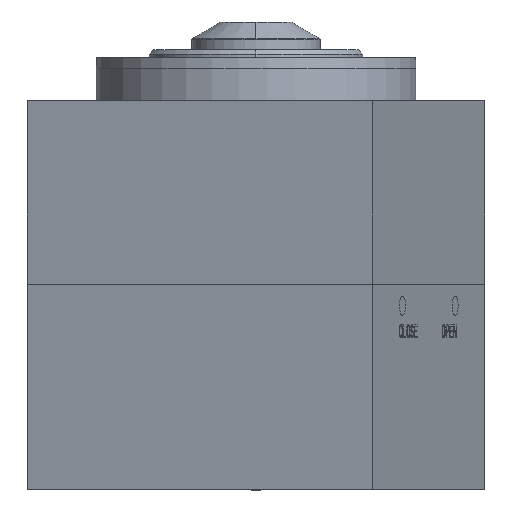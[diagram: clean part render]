
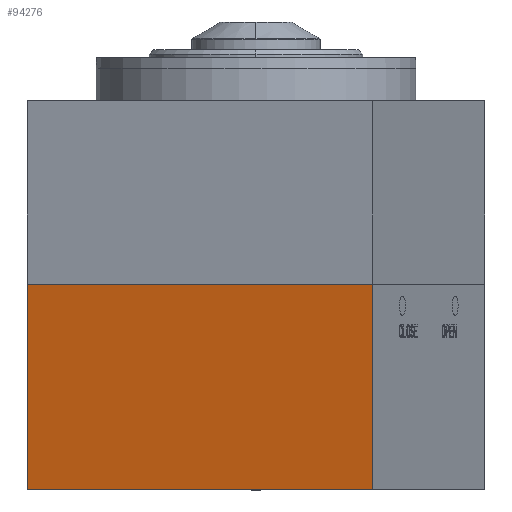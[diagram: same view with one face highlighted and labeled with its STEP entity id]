
A CAD part, left-side view. The second image highlights one B-rep face of the part: STEP entity #94276.
In plain terms, the highlighted planar face has unit normal (-0.951, 0.309, 0) as drawn and (-1, 0, 0) by its records, which use the part's own axes.
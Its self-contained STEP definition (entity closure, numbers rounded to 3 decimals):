
#85494=DIRECTION('',(0.,0.,-1.));
#85495=VECTOR('',#85494,170.);
#85496=CARTESIAN_POINT('',(-85.,0.,85.));
#85497=LINE('',#85496,#85495);
#85869=DIRECTION('',(0.,1.,0.));
#85870=VECTOR('',#85869,96.);
#85871=CARTESIAN_POINT('',(-85.,-96.,85.));
#85872=LINE('',#85871,#85870);
#87856=DIRECTION('',(0.,0.,-1.));
#87857=VECTOR('',#87856,170.);
#87858=CARTESIAN_POINT('',(-85.,-96.,85.));
#87859=LINE('',#87858,#87857);
#87884=DIRECTION('',(0.,1.,0.));
#87885=VECTOR('',#87884,96.);
#87886=CARTESIAN_POINT('',(-85.,-96.,-85.));
#87887=LINE('',#87886,#87885);
#91726=CARTESIAN_POINT('',(-85.,0.,85.));
#91727=CARTESIAN_POINT('',(-85.,0.,-85.));
#91728=VERTEX_POINT('',#91726);
#91729=VERTEX_POINT('',#91727);
#91734=CARTESIAN_POINT('',(-85.,-96.,85.));
#91735=CARTESIAN_POINT('',(-85.,-96.,-85.));
#91736=VERTEX_POINT('',#91734);
#91737=VERTEX_POINT('',#91735);
#94265=CARTESIAN_POINT('',(-85.,0.,-85.));
#94266=DIRECTION('',(-1.,0.,0.));
#94267=DIRECTION('',(0.,0.,1.));
#94268=AXIS2_PLACEMENT_3D('',#94265,#94266,#94267);
#94269=PLANE('',#94268);
#94270=ORIENTED_EDGE('',*,*,#92907,.F.);
#94271=ORIENTED_EDGE('',*,*,#93346,.F.);
#94272=ORIENTED_EDGE('',*,*,#94241,.T.);
#94273=ORIENTED_EDGE('',*,*,#93977,.T.);
#94274=EDGE_LOOP('',(#94270,#94271,#94272,#94273));
#94275=FACE_OUTER_BOUND('',#94274,.F.);
#94276=ADVANCED_FACE('',(#94275),#94269,.T.);
#92907=EDGE_CURVE('',#91728,#91729,#85497,.T.);
#93346=EDGE_CURVE('',#91736,#91728,#85872,.T.);
#93977=EDGE_CURVE('',#91737,#91729,#87887,.T.);
#94241=EDGE_CURVE('',#91736,#91737,#87859,.T.);
